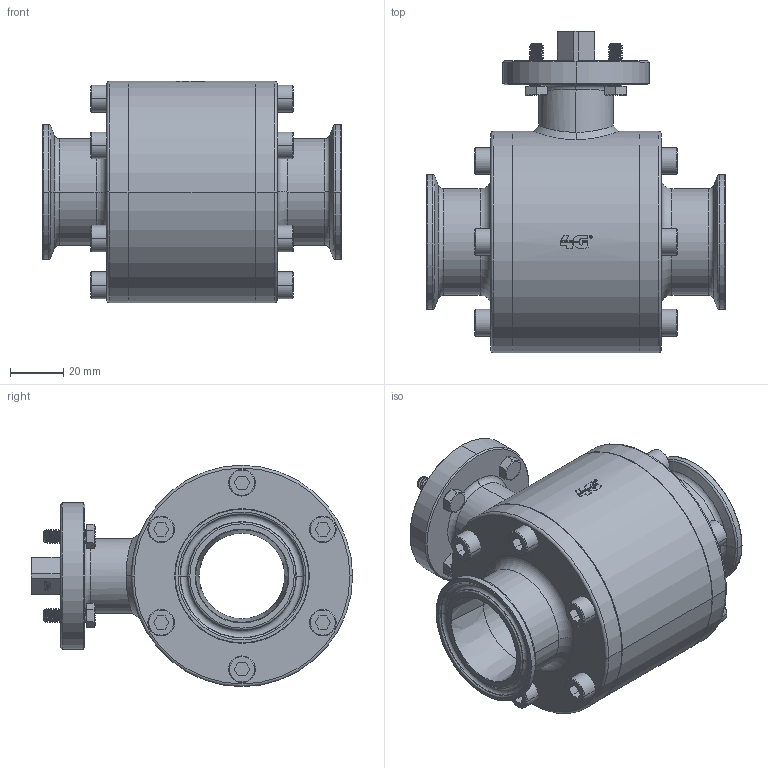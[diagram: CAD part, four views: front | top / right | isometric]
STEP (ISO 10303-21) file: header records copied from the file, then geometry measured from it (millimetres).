
FILE_DESCRIPTION((''),'2;1');
FILE_NAME('11303063210_SW0002','2025-05-16T08:22:31',('tecnico2'),('CDM Tecnoconsulting'),'CREO PARAMETRIC BY PTC INC, 2024063','CREO PARAMETRIC BY PTC INC, 2024063','');
FILE_SCHEMA(('CONFIG_CONTROL_DESIGN','SHAPE_APPEARANCE_LAYERS_GROUPS'));
Products named in the file (1): 11303063210_SW0002
Bounding box: 112 x 120.5 x 83 mm (x, y, z)
Volume: 327593.8 mm3; surface area: 92161.7 mm2
Topology: 5 solids, 5 shells, 1263 faces, 3208 edges, 2015 vertices
Faces by surface type: plane 420, cylinder 341, cone 208, extrusion 111, bspline 103, torus 76, sphere 4
Entity records: 92675 total; most frequent: CARTESIAN_POINT 50175, ORIENTED_EDGE 6400, DIRECTION 5396, PRESENTATION_STYLE_ASSIGNMENT 3761, STYLED_ITEM 3261, CURVE_STYLE 3256, EDGE_CURVE 3200, VERTEX_POINT 2015
